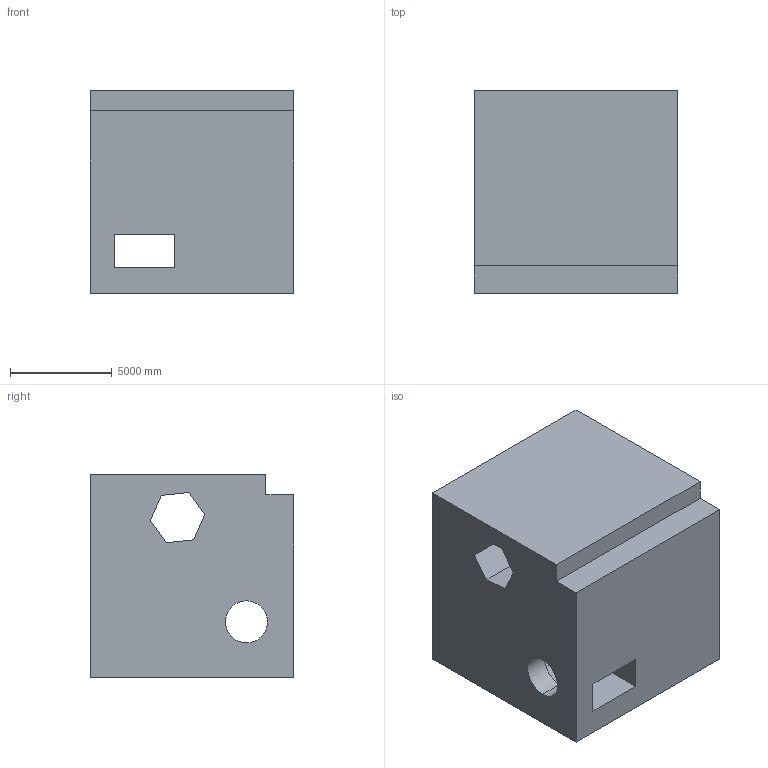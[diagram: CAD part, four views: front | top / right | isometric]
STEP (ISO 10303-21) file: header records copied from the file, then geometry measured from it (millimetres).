
FILE_DESCRIPTION (( 'STEP AP203' ), '1' );
FILE_NAME ('1486.STEP', '2022-08-18T14:46:11', ( 'user' ), ( '' ), 'SwSTEP 2.0', 'SolidWorks 2021', '' );
FILE_SCHEMA (( 'CONFIG_CONTROL_DESIGN' ));
Length unit declared in the file: centimetre
Products named in the file (1): 1486
Bounding box: 10000 x 10000 x 10000 mm (x, y, z)
Volume: 852108903039.1 mm3; surface area: 807524904.7 mm2
Topology: 1 solids, 1 shells, 25 faces, 75 edges, 50 vertices
Faces by surface type: plane 22, cylinder 3
Entity records: 932 total; most frequent: CARTESIAN_POINT 151, ORIENTED_EDGE 150, DIRECTION 137, EDGE_CURVE 75, LINE 65, VECTOR 65, VERTEX_POINT 50, AXIS2_PLACEMENT_3D 36
